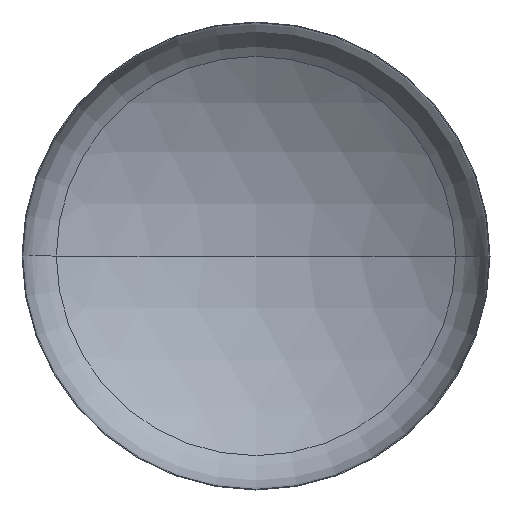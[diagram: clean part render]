
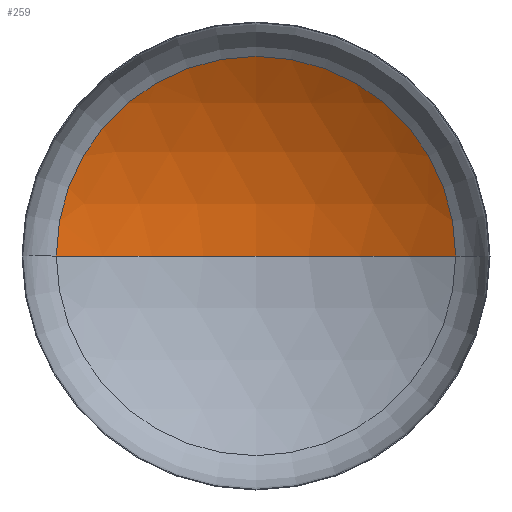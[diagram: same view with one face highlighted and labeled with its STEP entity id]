
A CAD part, front view. The second image highlights one B-rep face of the part: STEP entity #259.
In plain terms, the highlighted spherical face has radius 5600 mm.
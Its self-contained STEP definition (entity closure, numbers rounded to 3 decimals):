
#14 = ORIENTED_EDGE ( 'NONE', *, *, #137, .F. ) ;
#15 = VERTEX_POINT ( 'NONE', #253 ) ;
#25 = AXIS2_PLACEMENT_3D ( 'NONE', #403, #387, #132 ) ;
#63 = AXIS2_PLACEMENT_3D ( 'NONE', #206, #207, #195 ) ;
#67 = AXIS2_PLACEMENT_3D ( 'NONE', #186, #302, #299 ) ;
#72 = AXIS2_PLACEMENT_3D ( 'NONE', #296, #295, #292 ) ;
#94 = VERTEX_POINT ( 'NONE', #222 ) ;
#127 = EDGE_LOOP ( 'NONE', ( #14, #151, #129 ) ) ;
#129 = ORIENTED_EDGE ( 'NONE', *, *, #131, .T. ) ;
#131 = EDGE_CURVE ( 'NONE', #15, #94, #390, .T. ) ;
#132 = DIRECTION ( 'NONE',  ( -1., 0., 0. ) ) ;
#133 = EDGE_CURVE ( 'NONE', #148, #15, #268, .T. ) ;
#137 = EDGE_CURVE ( 'NONE', #148, #94, #202, .T. ) ;
#148 = VERTEX_POINT ( 'NONE', #348 ) ;
#151 = ORIENTED_EDGE ( 'NONE', *, *, #133, .T. ) ;
#181 = FACE_OUTER_BOUND ( 'NONE', #127, .T. ) ;
#186 = CARTESIAN_POINT ( 'NONE',  ( 0., -3793.912, 0. ) ) ;
#195 = DIRECTION ( 'NONE',  ( 1., 0., 0. ) ) ;
#202 = CIRCLE ( 'NONE', #63, 5600. ) ;
#206 = CARTESIAN_POINT ( 'NONE',  ( 0., -3793.912, 0. ) ) ;
#207 = DIRECTION ( 'NONE',  ( 0., 0., 1. ) ) ;
#222 = CARTESIAN_POINT ( 'NONE',  ( -2985.841, 943.678, 0. ) ) ;
#253 = CARTESIAN_POINT ( 'NONE',  ( 2985.841, 943.678, 0. ) ) ;
#259 = ADVANCED_FACE ( 'NONE', ( #181 ), #308, .F. ) ;
#268 = CIRCLE ( 'NONE', #67, 5600. ) ;
#292 = DIRECTION ( 'NONE',  ( 1., 0., 0. ) ) ;
#295 = DIRECTION ( 'NONE',  ( 0., -1., 0. ) ) ;
#296 = CARTESIAN_POINT ( 'NONE',  ( 0., 943.678, 0. ) ) ;
#299 = DIRECTION ( 'NONE',  ( -1., 0., 0. ) ) ;
#302 = DIRECTION ( 'NONE',  ( 0., 0., -1. ) ) ;
#308 = SPHERICAL_SURFACE ( 'NONE', #25, 5600. ) ;
#348 = CARTESIAN_POINT ( 'NONE',  ( 0., 1806.088, 0. ) ) ;
#387 = DIRECTION ( 'NONE',  ( 0., 0., -1. ) ) ;
#390 = CIRCLE ( 'NONE', #72, 2985.841 ) ;
#403 = CARTESIAN_POINT ( 'NONE',  ( 0., -3793.912, 0. ) ) ;
